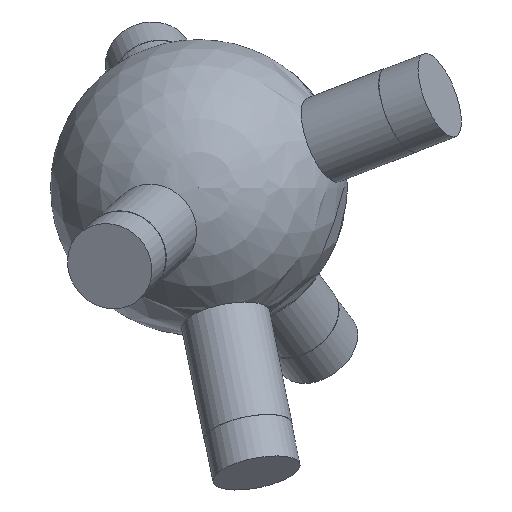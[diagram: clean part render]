
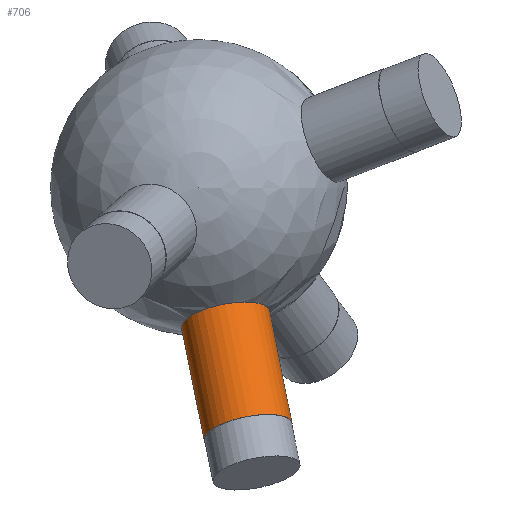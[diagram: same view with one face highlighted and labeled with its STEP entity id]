
A CAD part, top view. The second image highlights one B-rep face of the part: STEP entity #706.
In plain terms, the highlighted cylindrical face has radius 6 mm (diameter 12 mm), a full revolution.
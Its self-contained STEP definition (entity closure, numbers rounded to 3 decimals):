
#35 = SPHERICAL_SURFACE('',#36,20.);
#36 = AXIS2_PLACEMENT_3D('',#37,#38,#39);
#37 = CARTESIAN_POINT('',(0.,0.,0.));
#38 = DIRECTION('',(0.,0.,1.));
#39 = DIRECTION('',(1.,0.,-0.));
#330 = EDGE_CURVE('',#331,#331,#333,.T.);
#331 = VERTEX_POINT('',#332);
#332 = CARTESIAN_POINT('',(3.56,-19.667,0.726
    ));
#333 = SURFACE_CURVE('',#334,(#339,#408),.PCURVE_S1.);
#334 = CIRCLE('',#335,6.);
#335 = AXIS2_PLACEMENT_3D('',#336,#337,#338);
#336 = CARTESIAN_POINT('',(3.56,-17.628,6.369
    ));
#337 = DIRECTION('',(0.187,-0.924,0.334));
#338 = DIRECTION('',(0.,-0.34,-0.94)
  );
#339 = PCURVE('',#35,#340);
#340 = DEFINITIONAL_REPRESENTATION('',(#341),#407);
#341 = B_SPLINE_CURVE_WITH_KNOTS('',8,(#342,#343,#344,#345,#346,#347,
    #348,#349,#350,#351,#352,#353,#354,#355,#356,#357,#358,#359,#360,
    #361,#362,#363,#364,#365,#366,#367,#368,#369,#370,#371,#372,#373,
    #374,#375,#376,#377,#378,#379,#380,#381,#382,#383,#384,#385,#386,
    #387,#388,#389,#390,#391,#392,#393,#394,#395,#396,#397,#398,#399,
    #400,#401,#402,#403,#404,#405,#406),.UNSPECIFIED.,.T.,.F.,(9,7,7,7,7
    ,7,7,7,7,9),(0.,0.785,1.473,2.074,
    2.6,3.06,3.866,4.47,
    5.377,6.283),.UNSPECIFIED.);
#342 = CARTESIAN_POINT('',(4.891,0.036));
#343 = CARTESIAN_POINT('',(4.921,0.034));
#344 = CARTESIAN_POINT('',(4.95,0.036));
#345 = CARTESIAN_POINT('',(4.98,0.04));
#346 = CARTESIAN_POINT('',(5.009,0.048));
#347 = CARTESIAN_POINT('',(5.037,0.058));
#348 = CARTESIAN_POINT('',(5.063,0.071));
#349 = CARTESIAN_POINT('',(5.088,0.087));
#350 = CARTESIAN_POINT('',(5.132,0.122));
#351 = CARTESIAN_POINT('',(5.151,0.14));
#352 = CARTESIAN_POINT('',(5.168,0.159));
#353 = CARTESIAN_POINT('',(5.183,0.18));
#354 = CARTESIAN_POINT('',(5.197,0.203));
#355 = CARTESIAN_POINT('',(5.208,0.226));
#356 = CARTESIAN_POINT('',(5.217,0.25));
#357 = CARTESIAN_POINT('',(5.23,0.297));
#358 = CARTESIAN_POINT('',(5.235,0.319));
#359 = CARTESIAN_POINT('',(5.237,0.342));
#360 = CARTESIAN_POINT('',(5.237,0.365));
#361 = CARTESIAN_POINT('',(5.236,0.387));
#362 = CARTESIAN_POINT('',(5.232,0.41));
#363 = CARTESIAN_POINT('',(5.227,0.432));
#364 = CARTESIAN_POINT('',(5.212,0.472));
#365 = CARTESIAN_POINT('',(5.204,0.49));
#366 = CARTESIAN_POINT('',(5.194,0.508));
#367 = CARTESIAN_POINT('',(5.182,0.525));
#368 = CARTESIAN_POINT('',(5.168,0.541));
#369 = CARTESIAN_POINT('',(5.153,0.556));
#370 = CARTESIAN_POINT('',(5.137,0.57));
#371 = CARTESIAN_POINT('',(5.103,0.594));
#372 = CARTESIAN_POINT('',(5.086,0.604));
#373 = CARTESIAN_POINT('',(5.068,0.613));
#374 = CARTESIAN_POINT('',(5.049,0.621));
#375 = CARTESIAN_POINT('',(5.029,0.628));
#376 = CARTESIAN_POINT('',(5.009,0.634));
#377 = CARTESIAN_POINT('',(4.988,0.638));
#378 = CARTESIAN_POINT('',(4.93,0.646));
#379 = CARTESIAN_POINT('',(4.892,0.648));
#380 = CARTESIAN_POINT('',(4.853,0.645));
#381 = CARTESIAN_POINT('',(4.816,0.638));
#382 = CARTESIAN_POINT('',(4.78,0.627));
#383 = CARTESIAN_POINT('',(4.748,0.612));
#384 = CARTESIAN_POINT('',(4.718,0.594));
#385 = CARTESIAN_POINT('',(4.672,0.558));
#386 = CARTESIAN_POINT('',(4.654,0.541));
#387 = CARTESIAN_POINT('',(4.639,0.522));
#388 = CARTESIAN_POINT('',(4.625,0.503));
#389 = CARTESIAN_POINT('',(4.614,0.482));
#390 = CARTESIAN_POINT('',(4.605,0.461));
#391 = CARTESIAN_POINT('',(4.599,0.439));
#392 = CARTESIAN_POINT('',(4.587,0.383));
#393 = CARTESIAN_POINT('',(4.584,0.349));
#394 = CARTESIAN_POINT('',(4.587,0.315));
#395 = CARTESIAN_POINT('',(4.593,0.281));
#396 = CARTESIAN_POINT('',(4.604,0.248));
#397 = CARTESIAN_POINT('',(4.619,0.216));
#398 = CARTESIAN_POINT('',(4.636,0.187));
#399 = CARTESIAN_POINT('',(4.679,0.133));
#400 = CARTESIAN_POINT('',(4.703,0.109));
#401 = CARTESIAN_POINT('',(4.73,0.088));
#402 = CARTESIAN_POINT('',(4.76,0.07));
#403 = CARTESIAN_POINT('',(4.791,0.055));
#404 = CARTESIAN_POINT('',(4.824,0.045));
#405 = CARTESIAN_POINT('',(4.858,0.038));
#406 = CARTESIAN_POINT('',(4.891,0.036));
#407 = ( GEOMETRIC_REPRESENTATION_CONTEXT(2) 
PARAMETRIC_REPRESENTATION_CONTEXT() REPRESENTATION_CONTEXT('2D SPACE',''
  ) );
#408 = PCURVE('',#409,#414);
#409 = CYLINDRICAL_SURFACE('',#410,6.);
#410 = AXIS2_PLACEMENT_3D('',#411,#412,#413);
#411 = CARTESIAN_POINT('',(0.,0.,0.));
#412 = DIRECTION('',(0.187,-0.924,0.334));
#413 = DIRECTION('',(0.,-0.34,-0.94)
  );
#414 = DEFINITIONAL_REPRESENTATION('',(#415),#419);
#415 = LINE('',#416,#417);
#416 = CARTESIAN_POINT('',(0.,19.079));
#417 = VECTOR('',#418,1.);
#418 = DIRECTION('',(1.,0.));
#419 = ( GEOMETRIC_REPRESENTATION_CONTEXT(2) 
PARAMETRIC_REPRESENTATION_CONTEXT() REPRESENTATION_CONTEXT('2D SPACE',''
  ) );
#706 = ADVANCED_FACE('',(#707),#409,.T.);
#707 = FACE_BOUND('',#708,.T.);
#708 = EDGE_LOOP('',(#709,#732,#759,#760));
#709 = ORIENTED_EDGE('',*,*,#710,.T.);
#710 = EDGE_CURVE('',#331,#711,#713,.T.);
#711 = VERTEX_POINT('',#712);
#712 = CARTESIAN_POINT('',(6.602,-34.734,6.17
    ));
#713 = SEAM_CURVE('',#714,(#718,#725),.PCURVE_S1.);
#714 = LINE('',#715,#716);
#715 = CARTESIAN_POINT('',(0.,-2.039,
    -5.643));
#716 = VECTOR('',#717,1.);
#717 = DIRECTION('',(0.187,-0.924,0.334));
#718 = PCURVE('',#409,#719);
#719 = DEFINITIONAL_REPRESENTATION('',(#720),#724);
#720 = LINE('',#721,#722);
#721 = CARTESIAN_POINT('',(6.283,-0.));
#722 = VECTOR('',#723,1.);
#723 = DIRECTION('',(0.,1.));
#724 = ( GEOMETRIC_REPRESENTATION_CONTEXT(2) 
PARAMETRIC_REPRESENTATION_CONTEXT() REPRESENTATION_CONTEXT('2D SPACE',''
  ) );
#725 = PCURVE('',#409,#726);
#726 = DEFINITIONAL_REPRESENTATION('',(#727),#731);
#727 = LINE('',#728,#729);
#728 = CARTESIAN_POINT('',(0.,-0.));
#729 = VECTOR('',#730,1.);
#730 = DIRECTION('',(0.,1.));
#731 = ( GEOMETRIC_REPRESENTATION_CONTEXT(2) 
PARAMETRIC_REPRESENTATION_CONTEXT() REPRESENTATION_CONTEXT('2D SPACE',''
  ) );
#732 = ORIENTED_EDGE('',*,*,#733,.F.);
#733 = EDGE_CURVE('',#711,#711,#734,.T.);
#734 = SURFACE_CURVE('',#735,(#740,#747),.PCURVE_S1.);
#735 = CIRCLE('',#736,6.);
#736 = AXIS2_PLACEMENT_3D('',#737,#738,#739);
#737 = CARTESIAN_POINT('',(6.602,-32.695,
    11.813));
#738 = DIRECTION('',(0.187,-0.924,0.334));
#739 = DIRECTION('',(0.,-0.34,-0.94)
  );
#740 = PCURVE('',#409,#741);
#741 = DEFINITIONAL_REPRESENTATION('',(#742),#746);
#742 = LINE('',#743,#744);
#743 = CARTESIAN_POINT('',(0.,35.385));
#744 = VECTOR('',#745,1.);
#745 = DIRECTION('',(1.,0.));
#746 = ( GEOMETRIC_REPRESENTATION_CONTEXT(2) 
PARAMETRIC_REPRESENTATION_CONTEXT() REPRESENTATION_CONTEXT('2D SPACE',''
  ) );
#747 = PCURVE('',#748,#753);
#748 = PLANE('',#749);
#749 = AXIS2_PLACEMENT_3D('',#750,#751,#752);
#750 = CARTESIAN_POINT('',(6.602,-32.695,
    11.813));
#751 = DIRECTION('',(0.187,-0.924,0.334));
#752 = DIRECTION('',(0.,-0.34,-0.94)
  );
#753 = DEFINITIONAL_REPRESENTATION('',(#754),#758);
#754 = CIRCLE('',#755,6.);
#755 = AXIS2_PLACEMENT_2D('',#756,#757);
#756 = CARTESIAN_POINT('',(0.,0.));
#757 = DIRECTION('',(1.,0.));
#758 = ( GEOMETRIC_REPRESENTATION_CONTEXT(2) 
PARAMETRIC_REPRESENTATION_CONTEXT() REPRESENTATION_CONTEXT('2D SPACE',''
  ) );
#759 = ORIENTED_EDGE('',*,*,#710,.F.);
#760 = ORIENTED_EDGE('',*,*,#330,.T.);
